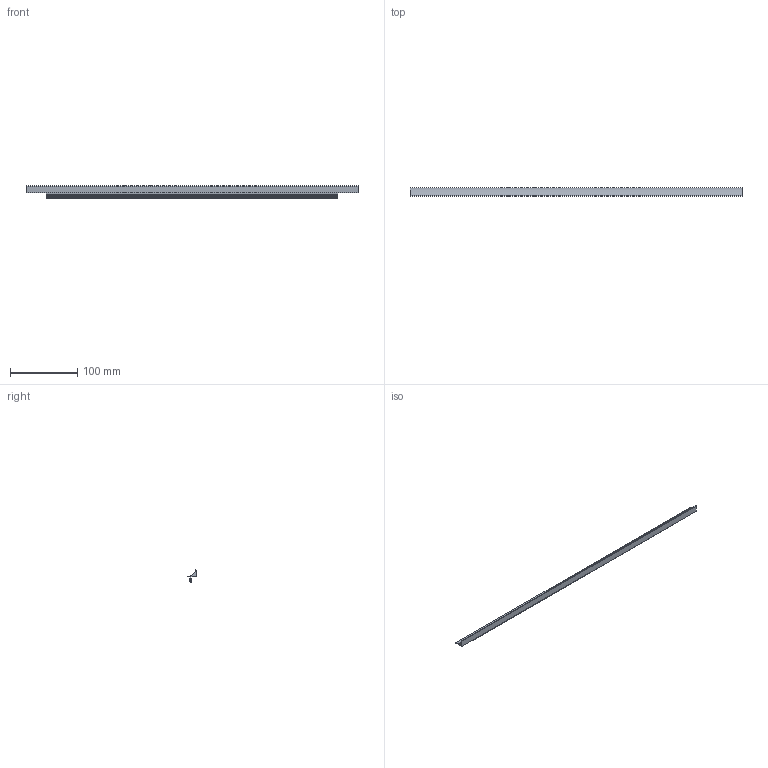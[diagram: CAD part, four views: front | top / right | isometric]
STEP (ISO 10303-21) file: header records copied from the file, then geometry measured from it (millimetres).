
FILE_DESCRIPTION( ( 'STEP AP214' ), '1' );
FILE_NAME( 'D:/Shahbaz D&D/Task/Working-ON/Correct Handle bar Riaza/QC/9208092/9208092.stp', '2023-03-13T09:03:22', ( '' ), ( '' ), ' ', 'PARTsolutions', ' ' );
FILE_SCHEMA( ( 'AUTOMOTIVE_DESIGN { 1 0 10303 214 1 1 1 1 }' ) );
Length unit declared in the file: millimetre
Products named in the file (1): _9208092
Bounding box: 495 x 12.5 x 18 mm (x, y, z)
Volume: 27715.1 mm3; surface area: 28465.3 mm2
Topology: 1 solids, 1 shells, 28 faces, 75 edges, 50 vertices
Faces by surface type: plane 25, cylinder 3
Entity records: 1105 total; most frequent: CARTESIAN_POINT 154, ORIENTED_EDGE 150, DIRECTION 139, EDGE_CURVE 75, LINE 69, VECTOR 69, VERTEX_POINT 50, AXIS2_PLACEMENT_3D 35
